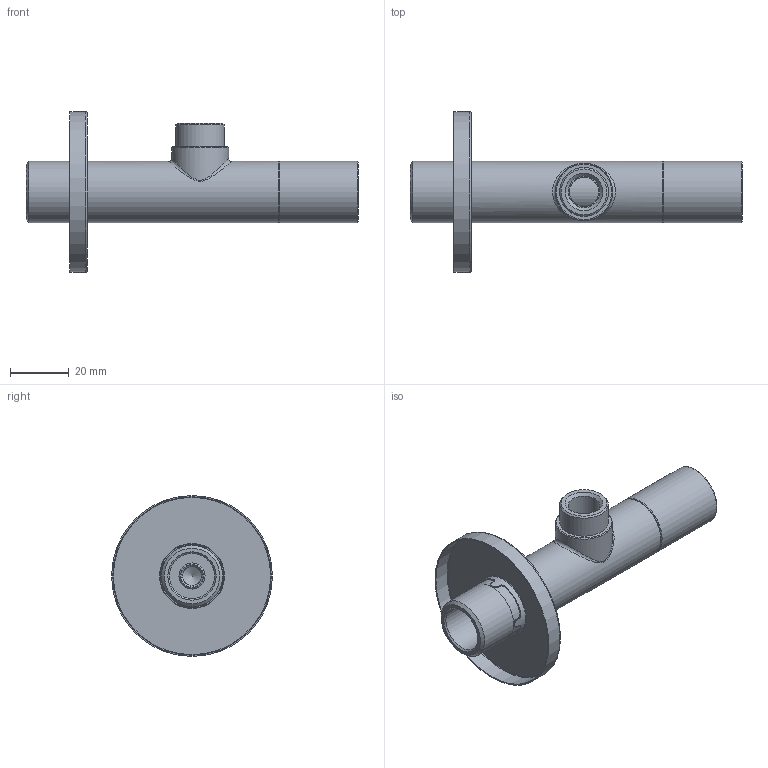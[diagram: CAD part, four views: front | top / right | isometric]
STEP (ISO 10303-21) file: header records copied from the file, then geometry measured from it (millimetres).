
FILE_DESCRIPTION(/* description */ ('Unknown'),/* implementation_level */ '2;1');
FILE_NAME(/* name */ 'RE045',/* time_stamp */ '2023-06-21T09:54:38+02:00',/* author */ ('Unknown'),/* organization */ ('Unknown'),/* preprocessor_version */ 'ST-DEVELOPER v18.102',/* originating_system */ 'Solid Edge',/* authorisation */ 'Unknown');
FILE_SCHEMA (('AUTOMOTIVE_DESIGN {1 0 10303 214 3 1 1}'));
Length unit declared in the file: millimetre
Products named in the file (11): RE045; RE045-01; RE045-02; RE045-03; RE045-04; RE045-05; RE045-06; RE045-07; RE045-08; RE045-09; RE045-10
Assembly tree (11 placements, depth 2):
  RE045
    RE045-01
    RE045-02
    RE045-03
    RE045-04
    RE045-05
    RE045-06
    RE045-07
    RE045-08  x2
    RE045-09
    RE045-10
Bounding box: 113.5 x 55 x 55 mm (x, y, z)
Volume: 31386 mm3; surface area: 29807.6 mm2
Topology: 11 solids, 11 shells, 199 faces, 472 edges, 306 vertices
Faces by surface type: plane 85, cylinder 67, cone 25, torus 18, bspline 4
Full cylindrical faces by diameter (mm): 5.77 x3, 6.4 x1, 7 x1, 8 x2, 8.2 x1, 8.917 x1, 10 x2, 10.5 x1, 10.8 x1, 11 x1, 11.3 x1, 11.8 x1, 13 x1, 13.6 x1, 14 x1, 14.376 x2, 14.4 x1, 15.5 x1, 16 x1, 16.4 x1, 16.662 x1, 16.917 x2, 18 x1, 19.5 x1, 20.955 x3, 21 x1, 21.8 x1, 54.2 x1, 55 x1
Entity records: 6891 total; most frequent: CARTESIAN_POINT 1549, DIRECTION 888, ORIENTED_EDGE 714, AXIS2_PLACEMENT_3D 367, EDGE_CURVE 357, FACE_BOUND 310, EDGE_LOOP 306, VERTEX_POINT 275
